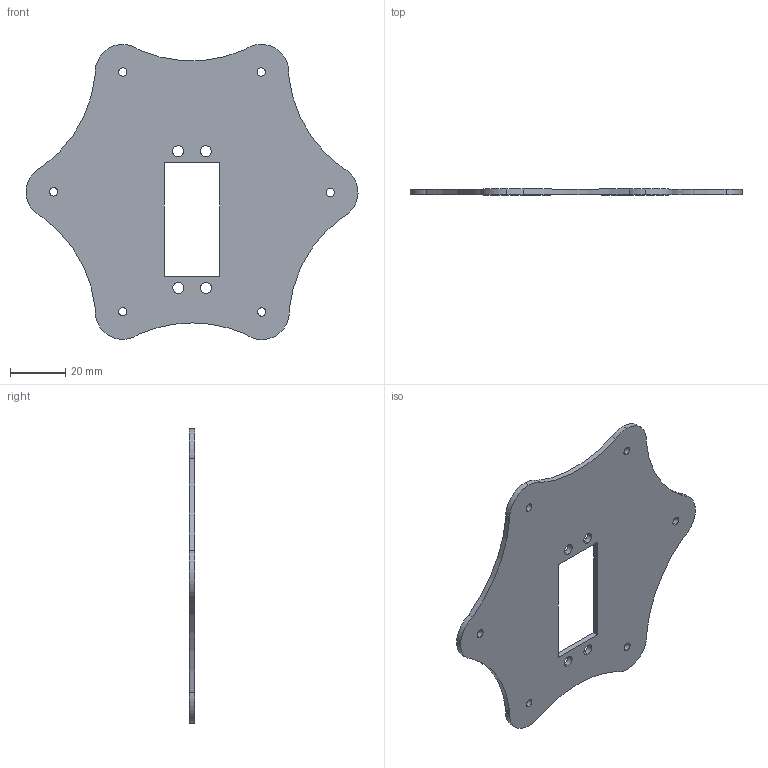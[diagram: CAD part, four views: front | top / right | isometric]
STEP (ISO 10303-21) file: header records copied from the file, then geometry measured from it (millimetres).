
FILE_DESCRIPTION (( 'STEP AP214' ), '1' );
FILE_NAME ('innerbody_bottum.STEP', '2020-04-03T13:17:25', ( '' ), ( '' ), 'SwSTEP 2.0', 'SolidWorks 2019', '' );
FILE_SCHEMA (( 'AUTOMOTIVE_DESIGN' ));
Length unit declared in the file: millimetre
Products named in the file (1): innerbody_bottum
Bounding box: 120 x 2 x 106.68 mm (x, y, z)
Volume: 15589.4 mm3; surface area: 16796.5 mm2
Topology: 1 solids, 1 shells, 41 faces, 117 edges, 78 vertices
Faces by surface type: cylinder 35, plane 6
Entity records: 1459 total; most frequent: DIRECTION 271, CARTESIAN_POINT 237, ORIENTED_EDGE 234, EDGE_CURVE 117, AXIS2_PLACEMENT_3D 112, VERTEX_POINT 78, CIRCLE 70, EDGE_LOOP 63
